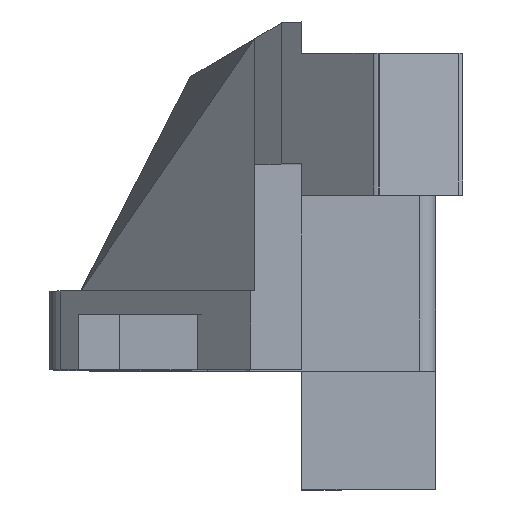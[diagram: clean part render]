
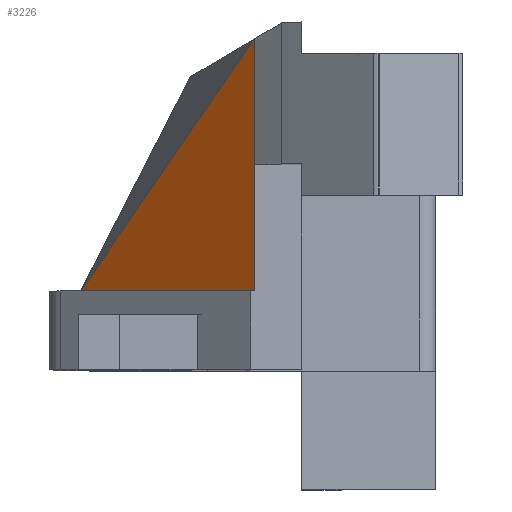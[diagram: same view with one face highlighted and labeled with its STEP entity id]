
A CAD part, top view. The second image highlights one B-rep face of the part: STEP entity #3226.
In plain terms, the highlighted planar face has unit normal (-0.652, 0, 0.758).
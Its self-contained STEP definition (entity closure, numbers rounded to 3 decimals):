
#107 = EDGE_CURVE ( 'NONE', #4496, #1182, #3799, .T. ) ;
#436 = DIRECTION ( 'NONE',  ( 0.652, 0., -0.758 ) ) ;
#495 = CARTESIAN_POINT ( 'NONE',  ( -3.052, 5., -2.861 ) ) ;
#524 = CARTESIAN_POINT ( 'NONE',  ( -3.052, 5., -2.861 ) ) ;
#564 = EDGE_CURVE ( 'NONE', #3828, #4496, #4173, .T. ) ;
#656 = FACE_OUTER_BOUND ( 'NONE', #3704, .T. ) ;
#830 = CARTESIAN_POINT ( 'NONE',  ( -3.052, 5., -2.861 ) ) ;
#1182 = VERTEX_POINT ( 'NONE', #3689 ) ;
#1218 = LINE ( 'NONE', #2676, #4191 ) ;
#1943 = DIRECTION ( 'NONE',  ( -0.758, 0., -0.652 ) ) ;
#1984 = ORIENTED_EDGE ( 'NONE', *, *, #107, .F. ) ;
#2097 = PLANE ( 'NONE',  #3353 ) ;
#2388 = DIRECTION ( 'NONE',  ( 0.51, 0.739, 0.439 ) ) ;
#2676 = CARTESIAN_POINT ( 'NONE',  ( 7.995, 5., 6.65 ) ) ;
#3226 = ADVANCED_FACE ( 'NONE', ( #656 ), #2097, .F. ) ;
#3353 = AXIS2_PLACEMENT_3D ( 'NONE', #3716, #436, #4050 ) ;
#3518 = ORIENTED_EDGE ( 'NONE', *, *, #3760, .T. ) ;
#3617 = VECTOR ( 'NONE', #2388, 1000. ) ;
#3689 = CARTESIAN_POINT ( 'NONE',  ( 7.995, 21.007, 6.65 ) ) ;
#3704 = EDGE_LOOP ( 'NONE', ( #3518, #1984, #3714 ) ) ;
#3714 = ORIENTED_EDGE ( 'NONE', *, *, #564, .F. ) ;
#3716 = CARTESIAN_POINT ( 'NONE',  ( -3.052, 5., -2.861 ) ) ;
#3760 = EDGE_CURVE ( 'NONE', #3828, #1182, #1218, .T. ) ;
#3799 = LINE ( 'NONE', #524, #3617 ) ;
#3828 = VERTEX_POINT ( 'NONE', #4159 ) ;
#4050 = DIRECTION ( 'NONE',  ( -0.758, 0., -0.652 ) ) ;
#4159 = CARTESIAN_POINT ( 'NONE',  ( 7.995, 5., 6.65 ) ) ;
#4173 = LINE ( 'NONE', #495, #4482 ) ;
#4191 = VECTOR ( 'NONE', #4551, 1000. ) ;
#4482 = VECTOR ( 'NONE', #1943, 1000. ) ;
#4496 = VERTEX_POINT ( 'NONE', #830 ) ;
#4551 = DIRECTION ( 'NONE',  ( 0., 1., 0. ) ) ;
